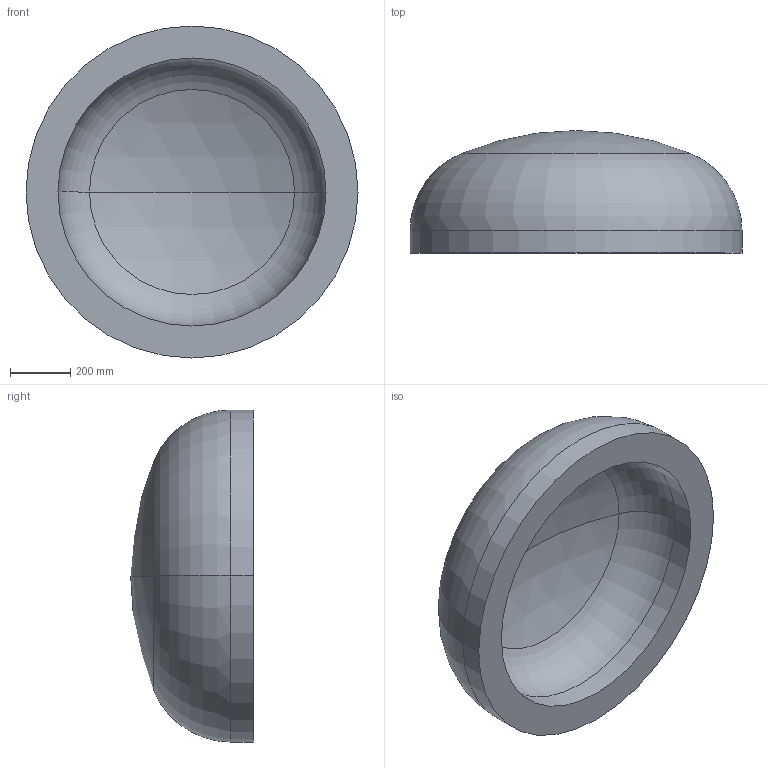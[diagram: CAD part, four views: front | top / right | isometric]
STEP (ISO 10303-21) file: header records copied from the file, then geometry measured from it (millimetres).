
FILE_DESCRIPTION (( 'STEP AP203' ), '1' );
FILE_NAME ('DIN 28013 Korbbogenform_-_Boden DIN 28013 - 1100 x 75 - I - s=106.step', '2016-07-01T09:16:54', ( '' ), ( '' ), 'SwSTEP 2.0', 'SolidWorks 2013', '' );
FILE_SCHEMA (( 'CONFIG_CONTROL_DESIGN' ));
Length unit declared in the file: millimetre
Products named in the file (1): DIN 28013 Korbbogenform_-_Boden DIN 28013 - 1100 x 75 - I - s=106
Bounding box: 1100 x 406 x 1100 mm (x, y, z)
Volume: 148715986.3 mm3; surface area: 3160504.9 mm2
Topology: 1 solids, 1 shells, 13 faces, 24 edges, 14 vertices
Faces by surface type: torus 4, cylinder 4, sphere 4, plane 1
Entity records: 407 total; most frequent: DIRECTION 72, CARTESIAN_POINT 52, ORIENTED_EDGE 48, AXIS2_PLACEMENT_3D 34, EDGE_CURVE 24, CIRCLE 20, EDGE_LOOP 14, VERTEX_POINT 14
